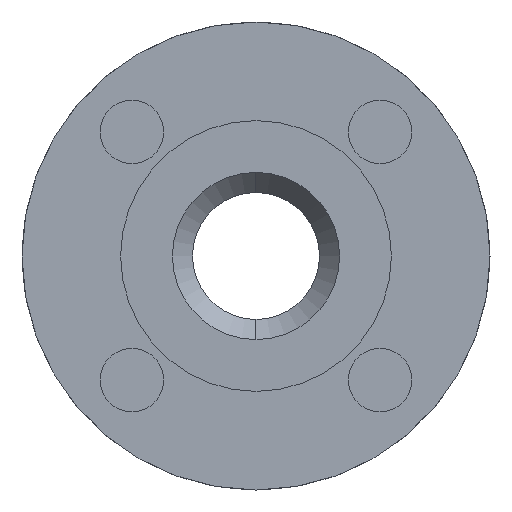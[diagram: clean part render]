
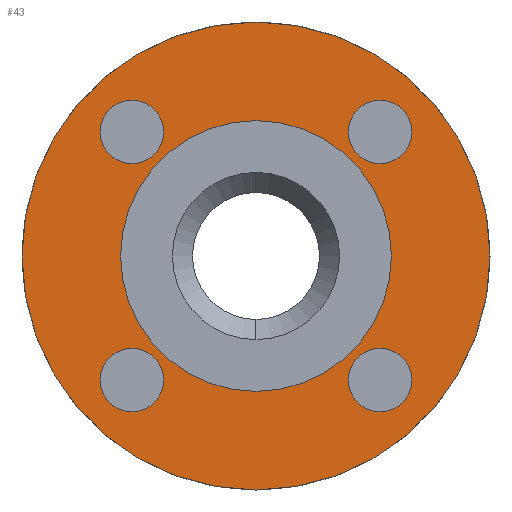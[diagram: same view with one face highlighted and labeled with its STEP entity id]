
A CAD part, left-side view. The second image highlights one B-rep face of the part: STEP entity #43.
In plain terms, the highlighted planar face has unit normal (-1, 0, 0).
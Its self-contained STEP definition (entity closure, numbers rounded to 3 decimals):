
#43=ADVANCED_FACE('',(#174,#175,#176,#177,#178,#179),#173,.F.);
#173=PLANE('',#1222);
#174=FACE_OUTER_BOUND('',#1223,.T.);
#175=FACE_BOUND('',#1224,.T.);
#176=FACE_BOUND('',#1225,.T.);
#177=FACE_BOUND('',#1226,.T.);
#178=FACE_BOUND('',#1227,.T.);
#179=FACE_BOUND('',#1228,.T.);
#1219=CARTESIAN_POINT('',(2.,-131.244,80.));
#1220=DIRECTION('',(1.,0.,0.));
#1221=DIRECTION('',(0.,0.,-1.));
#1222=AXIS2_PLACEMENT_3D('',#1219,#1220,#1221);
#1223=EDGE_LOOP('',(#2167,#2168));
#1224=EDGE_LOOP('',(#2169,#2170));
#1225=EDGE_LOOP('',(#2171,#2172));
#1226=EDGE_LOOP('',(#2173,#2174));
#1227=EDGE_LOOP('',(#2175,#2176));
#1228=EDGE_LOOP('',(#2177,#2178));
#2167=ORIENTED_EDGE('',*,*,#2637,.T.);
#2168=ORIENTED_EDGE('',*,*,#2638,.T.);
#2169=ORIENTED_EDGE('',*,*,#2639,.F.);
#2170=ORIENTED_EDGE('',*,*,#2640,.F.);
#2171=ORIENTED_EDGE('',*,*,#2641,.F.);
#2172=ORIENTED_EDGE('',*,*,#2642,.F.);
#2173=ORIENTED_EDGE('',*,*,#2643,.F.);
#2174=ORIENTED_EDGE('',*,*,#2644,.F.);
#2175=ORIENTED_EDGE('',*,*,#2645,.F.);
#2176=ORIENTED_EDGE('',*,*,#2646,.F.);
#2177=ORIENTED_EDGE('',*,*,#2647,.F.);
#2178=ORIENTED_EDGE('',*,*,#2648,.F.);
#2637=EDGE_CURVE('',#2949,#2950,#2951,.T.);
#2638=EDGE_CURVE('',#2950,#2949,#2957,.T.);
#2639=EDGE_CURVE('',#2963,#2964,#2965,.T.);
#2640=EDGE_CURVE('',#2964,#2963,#2971,.T.);
#2641=EDGE_CURVE('',#2977,#2978,#2979,.T.);
#2642=EDGE_CURVE('',#2978,#2977,#2985,.T.);
#2643=EDGE_CURVE('',#2991,#2992,#2993,.T.);
#2644=EDGE_CURVE('',#2992,#2991,#2999,.T.);
#2645=EDGE_CURVE('',#3005,#3006,#3007,.T.);
#2646=EDGE_CURVE('',#3006,#3005,#3013,.T.);
#2647=EDGE_CURVE('',#3019,#3020,#3021,.T.);
#2648=EDGE_CURVE('',#3020,#3019,#3027,.T.);
#2949=VERTEX_POINT('',#4476);
#2950=VERTEX_POINT('',#4477);
#2951=CIRCLE('',#4481,70.);
#2957=CIRCLE('',#4485,70.);
#2963=VERTEX_POINT('',#4486);
#2964=VERTEX_POINT('',#4487);
#2965=CIRCLE('',#4491,9.5);
#2971=CIRCLE('',#4495,9.5);
#2977=VERTEX_POINT('',#4496);
#2978=VERTEX_POINT('',#4497);
#2979=CIRCLE('',#4501,9.5);
#2985=CIRCLE('',#4505,9.5);
#2991=VERTEX_POINT('',#4506);
#2992=VERTEX_POINT('',#4507);
#2993=CIRCLE('',#4511,9.5);
#2999=CIRCLE('',#4515,9.5);
#3005=VERTEX_POINT('',#4516);
#3006=VERTEX_POINT('',#4517);
#3007=CIRCLE('',#4521,40.5);
#3013=CIRCLE('',#4525,40.5);
#3019=VERTEX_POINT('',#4526);
#3020=VERTEX_POINT('',#4527);
#3021=CIRCLE('',#4531,9.5);
#3027=CIRCLE('',#4535,9.5);
#4476=CARTESIAN_POINT('',(2.,0.,70.));
#4477=CARTESIAN_POINT('',(2.,0.,-70.));
#4478=CARTESIAN_POINT('',(2.,0.,0.));
#4479=DIRECTION('',(-1.,0.,0.));
#4480=DIRECTION('',(0.,0.,1.));
#4481=AXIS2_PLACEMENT_3D('',#4478,#4479,#4480);
#4482=CARTESIAN_POINT('',(2.,0.,0.));
#4483=DIRECTION('',(-1.,0.,0.));
#4484=DIRECTION('',(0.,0.,1.));
#4485=AXIS2_PLACEMENT_3D('',#4482,#4483,#4484);
#4486=CARTESIAN_POINT('',(2.,-37.123,-27.623));
#4487=CARTESIAN_POINT('',(2.,-37.123,-46.623));
#4488=CARTESIAN_POINT('',(2.,-37.123,-37.123));
#4489=DIRECTION('',(-1.,0.,0.));
#4490=DIRECTION('',(0.,0.,-1.));
#4491=AXIS2_PLACEMENT_3D('',#4488,#4489,#4490);
#4492=CARTESIAN_POINT('',(2.,-37.123,-37.123));
#4493=DIRECTION('',(-1.,0.,0.));
#4494=DIRECTION('',(0.,0.,-1.));
#4495=AXIS2_PLACEMENT_3D('',#4492,#4493,#4494);
#4496=CARTESIAN_POINT('',(2.,37.123,-27.623));
#4497=CARTESIAN_POINT('',(2.,37.123,-46.623));
#4498=CARTESIAN_POINT('',(2.,37.123,-37.123));
#4499=DIRECTION('',(-1.,0.,0.));
#4500=DIRECTION('',(0.,0.,-1.));
#4501=AXIS2_PLACEMENT_3D('',#4498,#4499,#4500);
#4502=CARTESIAN_POINT('',(2.,37.123,-37.123));
#4503=DIRECTION('',(-1.,0.,0.));
#4504=DIRECTION('',(0.,0.,-1.));
#4505=AXIS2_PLACEMENT_3D('',#4502,#4503,#4504);
#4506=CARTESIAN_POINT('',(2.,37.123,46.623));
#4507=CARTESIAN_POINT('',(2.,37.123,27.623));
#4508=CARTESIAN_POINT('',(2.,37.123,37.123));
#4509=DIRECTION('',(-1.,0.,0.));
#4510=DIRECTION('',(0.,0.,-1.));
#4511=AXIS2_PLACEMENT_3D('',#4508,#4509,#4510);
#4512=CARTESIAN_POINT('',(2.,37.123,37.123));
#4513=DIRECTION('',(-1.,0.,0.));
#4514=DIRECTION('',(0.,0.,-1.));
#4515=AXIS2_PLACEMENT_3D('',#4512,#4513,#4514);
#4516=CARTESIAN_POINT('',(2.,0.,-40.5));
#4517=CARTESIAN_POINT('',(2.,0.,40.5));
#4518=CARTESIAN_POINT('',(2.,0.,0.));
#4519=DIRECTION('',(-1.,0.,0.));
#4520=DIRECTION('',(0.,0.,1.));
#4521=AXIS2_PLACEMENT_3D('',#4518,#4519,#4520);
#4522=CARTESIAN_POINT('',(2.,0.,0.));
#4523=DIRECTION('',(-1.,0.,0.));
#4524=DIRECTION('',(0.,0.,1.));
#4525=AXIS2_PLACEMENT_3D('',#4522,#4523,#4524);
#4526=CARTESIAN_POINT('',(2.,-37.123,46.623));
#4527=CARTESIAN_POINT('',(2.,-37.123,27.623));
#4528=CARTESIAN_POINT('',(2.,-37.123,37.123));
#4529=DIRECTION('',(-1.,0.,0.));
#4530=DIRECTION('',(0.,0.,-1.));
#4531=AXIS2_PLACEMENT_3D('',#4528,#4529,#4530);
#4532=CARTESIAN_POINT('',(2.,-37.123,37.123));
#4533=DIRECTION('',(-1.,0.,0.));
#4534=DIRECTION('',(0.,0.,-1.));
#4535=AXIS2_PLACEMENT_3D('',#4532,#4533,#4534);
